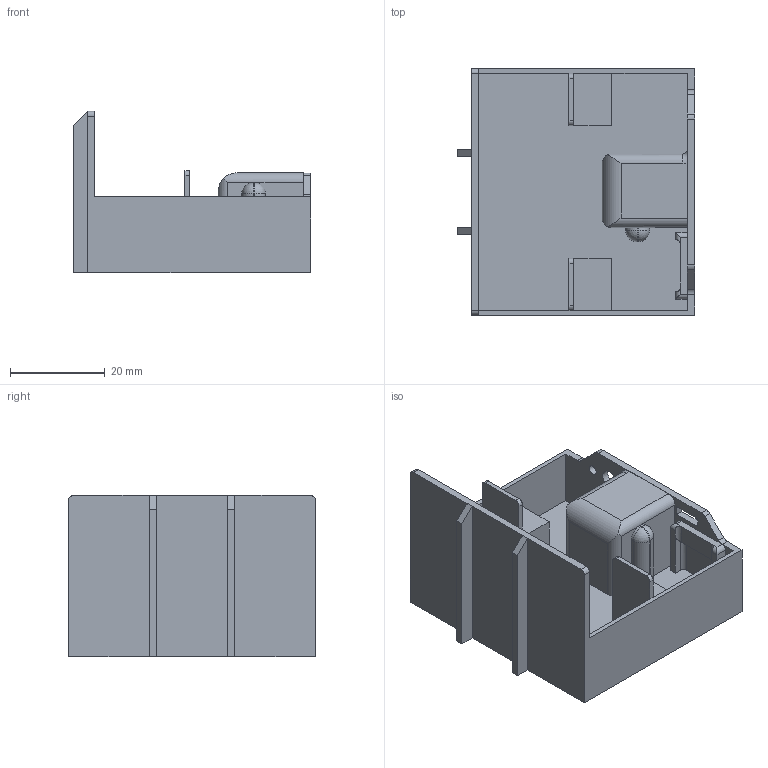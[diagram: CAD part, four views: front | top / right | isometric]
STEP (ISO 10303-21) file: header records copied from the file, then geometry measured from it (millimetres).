
FILE_DESCRIPTION(/* description */ ('Unknown'),/* implementation_level */ '2;1');
FILE_NAME(/* name */ 'vhubbard02032-Alco-interior',/* time_stamp */ '2025-01-18T20:05:18-06:00',/* author */ ('V Hubbard'),/* organization */ ('Hubbard Hobbies'),/* preprocessor_version */ 'ST-DEVELOPER v19.4',/* originating_system */ 'Solid Edge',/* authorisation */ 'Unknown');
FILE_SCHEMA (('AUTOMOTIVE_DESIGN {1 0 10303 214 3 1 1}'));
Length unit declared in the file: millimetre
Products named in the file (1): vhubbard02032-Alco-interior
Bounding box: 50 x 52 x 34 mm (x, y, z)
Volume: 17969.9 mm3; surface area: 14990.2 mm2
Topology: 1 solids, 1 shells, 114 faces, 312 edges, 198 vertices
Faces by surface type: plane 79, cylinder 32, sphere 2, torus 1
Full cylindrical faces by diameter (mm): 2 x1, 4 x1
Entity records: 3584 total; most frequent: CARTESIAN_POINT 654, ORIENTED_EDGE 614, DIRECTION 585, EDGE_CURVE 307, LINE 243, VECTOR 243, VERTEX_POINT 197, AXIS2_PLACEMENT_3D 171
